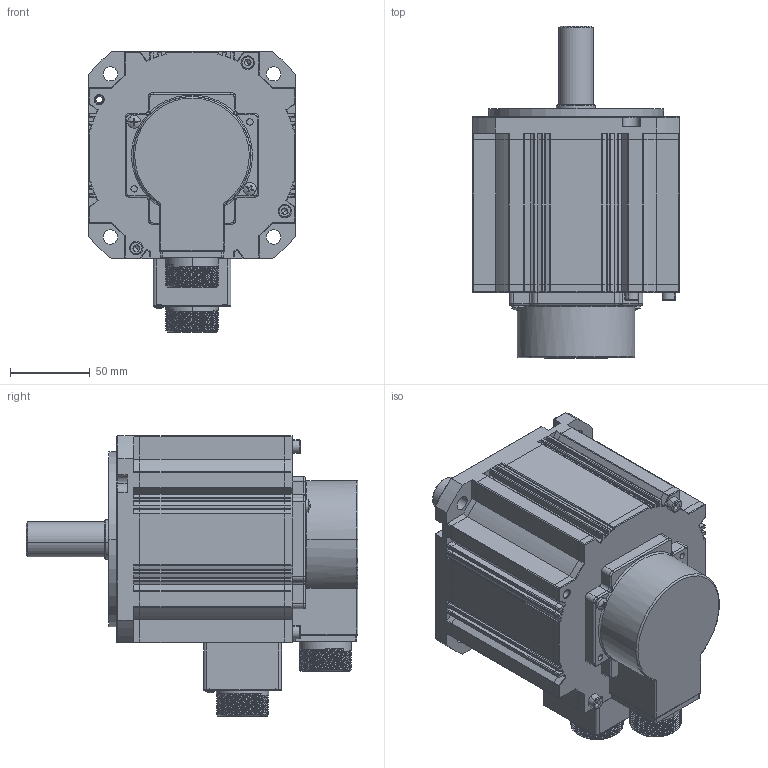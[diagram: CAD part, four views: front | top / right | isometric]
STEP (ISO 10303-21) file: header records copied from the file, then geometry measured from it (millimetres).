
FILE_DESCRIPTION (( 'STEP AP203' ), '1' );
FILE_NAME ('WF130ST-M071620-3D.STEP', '2021-07-26T09:13:46', ( '' ), ( '' ), 'SwSTEP 2.0', 'SolidWorks 2018', '' );
FILE_SCHEMA (( 'CONFIG_CONTROL_DESIGN' ));
Length unit declared in the file: millimetre
Products named in the file (16): 粣; 盓傅啣; 脣釱1; 瑤脣裔; jike; 綴傷裔; cross recessed pan head screws gb_GB_CROSS_SCREWS_TYPE1 M4X12-12  H type-N; 瑤脣窒煦; deep groove ball bearings gb_Rolling bearings 6205 GB 276-94; deep groove ball bearings gb_Rolling bearings 6204 GB 276-94; ヶ傷裔; WF130ST-M071620-3D; cross recessed pan head screws gb_GB_CROSS_SCREWS_TYPE1 M3X12-12  H type-N; 晤鎢欶裔; hexagon socket head cap screws gb_GB_FASTENER_SCREWS_HSHCS M5X20-N; 蛌赽軞傖
Assembly tree (22 placements, depth 3):
  WF130ST-M071620-3D
    jike
    瑤脣窒煦
      瑤脣裔
      脣釱1
      盓傅啣
    ヶ傷裔
    綴傷裔
    晤鎢欶裔
    脣釱1
    hexagon socket head cap screws gb_GB_FASTENER_SCREWS_HSHCS M5X20-N  x4
    cross recessed pan head screws gb_GB_CROSS_SCREWS_TYPE1 M4X12-12  H type-N  x2
    cross recessed pan head screws gb_GB_CROSS_SCREWS_TYPE1 M3X12-12  H type-N
    蛌赽軞傖
      粣
      deep groove ball bearings gb_Rolling bearings 6205 GB 276-94  x2
      deep groove ball bearings gb_Rolling bearings 6204 GB 276-94  x2
Bounding box: 130 x 208.5 x 176 mm (x, y, z)
Volume: 794220.2 mm3; surface area: 339494.9 mm2
Topology: 20 solids, 20 shells, 2358 faces, 6862 edges, 4370 vertices
Faces by surface type: cylinder 955, plane 611, torus 486, sphere 148, bspline 116, cone 42
Entity records: 73785 total; most frequent: CARTESIAN_POINT 23769, ORIENTED_EDGE 10402, DIRECTION 10068, EDGE_CURVE 5201, AXIS2_PLACEMENT_3D 4034, VERTEX_POINT 3275, CIRCLE 2168, EDGE_LOOP 2100
